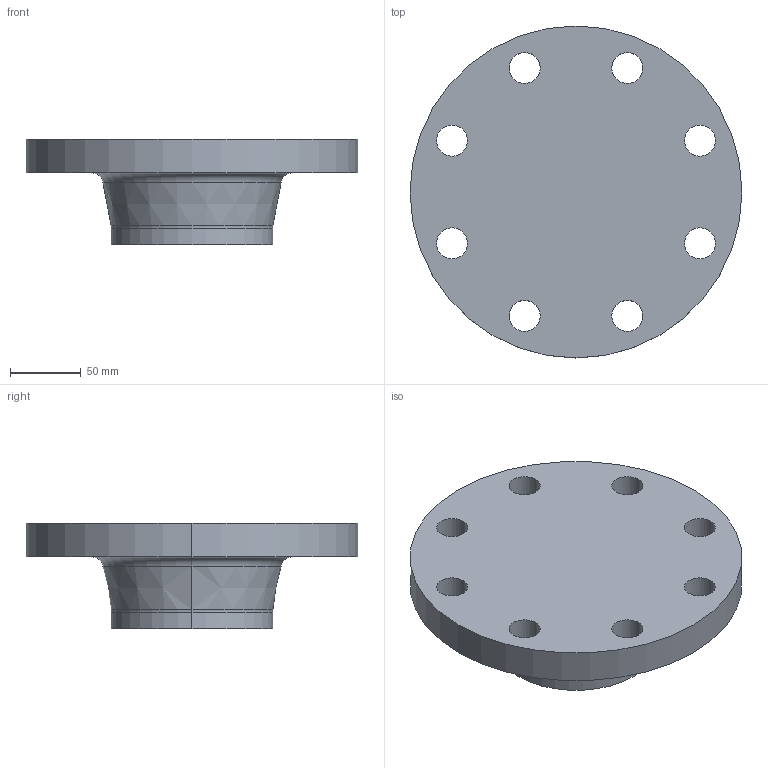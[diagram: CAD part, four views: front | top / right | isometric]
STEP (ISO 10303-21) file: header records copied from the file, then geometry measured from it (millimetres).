
FILE_DESCRIPTION (( 'STEP AP214' ), '1' );
FILE_NAME ('PN40 DN100 Type 21(ii) - Type A Face.STEP', '2019-01-02T00:14:21', ( '' ), ( '' ), 'SwSTEP 2.0', 'SolidWorks 2019', '' );
FILE_SCHEMA (( 'AUTOMOTIVE_DESIGN' ));
Length unit declared in the file: millimetre
Products named in the file (1): PN40 DN100 Type 21(ii) - Type A Face
Bounding box: 235 x 235 x 75 mm (x, y, z)
Volume: 1546557.6 mm3; surface area: 127471.2 mm2
Topology: 1 solids, 1 shells, 29 faces, 72 edges, 46 vertices
Faces by surface type: cylinder 20, torus 4, plane 3, cone 2
Entity records: 954 total; most frequent: DIRECTION 182, CARTESIAN_POINT 148, ORIENTED_EDGE 144, AXIS2_PLACEMENT_3D 80, EDGE_CURVE 72, CIRCLE 50, EDGE_LOOP 46, VERTEX_POINT 46
